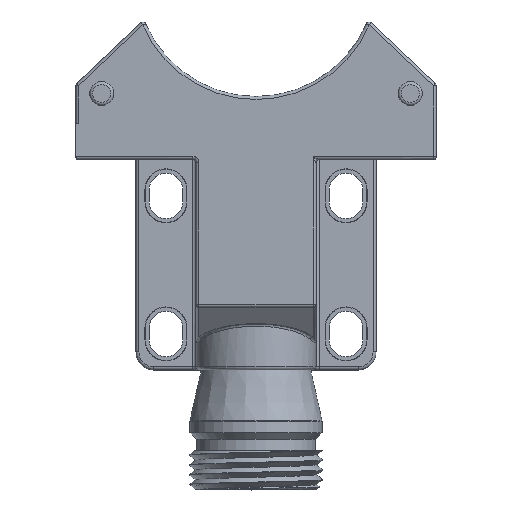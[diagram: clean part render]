
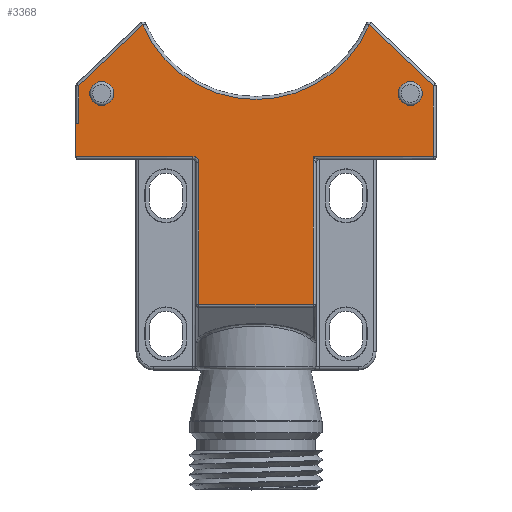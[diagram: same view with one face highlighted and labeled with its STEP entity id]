
A CAD part, top view. The second image highlights one B-rep face of the part: STEP entity #3368.
In plain terms, the highlighted planar face has unit normal (0, 0, 1).
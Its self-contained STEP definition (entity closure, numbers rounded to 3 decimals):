
#1255=CARTESIAN_POINT('',(84.393,-39.391,39.336));
#1256=VERTEX_POINT('',#1255);
#1266=CARTESIAN_POINT('',(83.893,-39.391,39.336));
#1267=VERTEX_POINT('',#1266);
#1274=CARTESIAN_POINT('',(84.393,-39.391,39.336));
#1275=DIRECTION('',(-1.0,0.0,0.0));
#1276=VECTOR('',#1275,0.5);
#1277=LINE('',#1274,#1276);
#1278=EDGE_CURVE('',#1256,#1267,#1277,.T.);
#1562=CARTESIAN_POINT('',(123.393,-44.891,39.336));
#1563=VERTEX_POINT('',#1562);
#1571=CARTESIAN_POINT('',(123.393,-69.541,39.336));
#1572=VERTEX_POINT('',#1571);
#1573=CARTESIAN_POINT('',(123.393,-44.891,39.336));
#1574=DIRECTION('',(0.0,-1.0,0.0));
#1575=VECTOR('',#1574,24.65);
#1576=LINE('',#1573,#1575);
#1577=EDGE_CURVE('',#1563,#1572,#1576,.T.);
#1623=CARTESIAN_POINT('',(104.393,-69.541,39.336));
#1624=VERTEX_POINT('',#1623);
#1640=CARTESIAN_POINT('',(123.393,-69.541,39.336));
#1641=DIRECTION('',(-1.0,0.0,0.0));
#1642=VECTOR('',#1641,19.);
#1643=LINE('',#1640,#1642);
#1644=EDGE_CURVE('',#1572,#1624,#1643,.T.);
#1661=CARTESIAN_POINT('',(104.393,-45.891,39.336));
#1662=VERTEX_POINT('',#1661);
#1663=CARTESIAN_POINT('',(104.393,-69.541,39.336));
#1664=DIRECTION('',(0.0,1.0,0.0));
#1665=VECTOR('',#1664,23.65);
#1666=LINE('',#1663,#1665);
#1667=EDGE_CURVE('',#1624,#1662,#1666,.T.);
#1770=CARTESIAN_POINT('',(103.393,-44.891,39.336));
#1771=VERTEX_POINT('',#1770);
#1779=CARTESIAN_POINT('',(83.893,-44.891,39.336));
#1780=VERTEX_POINT('',#1779);
#1781=CARTESIAN_POINT('',(103.393,-44.891,39.336));
#1782=DIRECTION('',(-1.0,0.0,0.0));
#1783=VECTOR('',#1782,19.5);
#1784=LINE('',#1781,#1783);
#1785=EDGE_CURVE('',#1771,#1780,#1784,.T.);
#1802=CARTESIAN_POINT('',(103.393,-45.891,39.336));
#1803=DIRECTION('',(0.,0.,1.));
#1804=DIRECTION('',(0.707,0.707,0.));
#1805=AXIS2_PLACEMENT_3D('',#1802,#1803,#1804);
#1806=CIRCLE('',#1805,1.);
#1807=EDGE_CURVE('',#1662,#1771,#1806,.T.);
#3112=CARTESIAN_POINT('',(83.893,-39.391,39.336));
#3113=DIRECTION('',(0.0,-1.0,0.0));
#3114=VECTOR('',#3113,5.5);
#3115=LINE('',#3112,#3114);
#3116=EDGE_CURVE('',#1267,#1780,#3115,.T.);
#3285=CARTESIAN_POINT('',(143.893,-39.391,39.336));
#3286=DIRECTION('',(0.0,0.0,1.0));
#3287=DIRECTION('',(-1.0,0.0,0.0));
#3288=AXIS2_PLACEMENT_3D('',#3285,#3286,#3287);
#3289=PLANE('',#3288);
#3290=CARTESIAN_POINT('',(143.393,-33.105,39.336));
#3291=VERTEX_POINT('',#3290);
#3292=CARTESIAN_POINT('',(143.393,-44.891,39.336));
#3293=VERTEX_POINT('',#3292);
#3294=CARTESIAN_POINT('',(143.393,-33.105,39.336));
#3295=DIRECTION('',(0.0,-1.0,0.0));
#3296=VECTOR('',#3295,11.785);
#3297=LINE('',#3294,#3296);
#3298=EDGE_CURVE('',#3291,#3293,#3297,.T.);
#3299=ORIENTED_EDGE('',*,*,#3298,.F.);
#3300=CARTESIAN_POINT('',(132.73,-22.979,39.336));
#3301=VERTEX_POINT('',#3300);
#3302=CARTESIAN_POINT('',(132.73,-22.979,39.336));
#3303=DIRECTION('',(0.725,-0.689,0.));
#3304=VECTOR('',#3303,14.705);
#3305=LINE('',#3302,#3304);
#3306=EDGE_CURVE('',#3301,#3291,#3305,.T.);
#3307=ORIENTED_EDGE('',*,*,#3306,.F.);
#3308=CARTESIAN_POINT('',(95.056,-22.979,39.336));
#3309=VERTEX_POINT('',#3308);
#3310=CARTESIAN_POINT('',(113.893,-14.891,39.336));
#3311=DIRECTION('',(0.0,0.0,1.0));
#3312=DIRECTION('',(0.0,-1.0,0.0));
#3313=AXIS2_PLACEMENT_3D('',#3310,#3311,#3312);
#3314=CIRCLE('',#3313,20.5);
#3315=EDGE_CURVE('',#3309,#3301,#3314,.T.);
#3316=ORIENTED_EDGE('',*,*,#3315,.F.);
#3317=CARTESIAN_POINT('',(84.393,-33.105,39.336));
#3318=VERTEX_POINT('',#3317);
#3319=CARTESIAN_POINT('',(84.393,-33.105,39.336));
#3320=DIRECTION('',(0.725,0.689,0.0));
#3321=VECTOR('',#3320,14.705);
#3322=LINE('',#3319,#3321);
#3323=EDGE_CURVE('',#3318,#3309,#3322,.T.);
#3324=ORIENTED_EDGE('',*,*,#3323,.F.);
#3325=CARTESIAN_POINT('',(84.393,-39.391,39.336));
#3326=DIRECTION('',(0.0,1.0,0.0));
#3327=VECTOR('',#3326,6.285);
#3328=LINE('',#3325,#3327);
#3329=EDGE_CURVE('',#1256,#3318,#3328,.T.);
#3330=ORIENTED_EDGE('',*,*,#3329,.F.);
#3331=ORIENTED_EDGE('',*,*,#1278,.T.);
#3332=ORIENTED_EDGE('',*,*,#3116,.T.);
#3333=ORIENTED_EDGE('',*,*,#1785,.F.);
#3334=ORIENTED_EDGE('',*,*,#1807,.F.);
#3335=ORIENTED_EDGE('',*,*,#1667,.F.);
#3336=ORIENTED_EDGE('',*,*,#1644,.F.);
#3337=ORIENTED_EDGE('',*,*,#1577,.F.);
#3338=CARTESIAN_POINT('',(143.393,-44.891,39.336));
#3339=DIRECTION('',(-1.0,0.0,0.0));
#3340=VECTOR('',#3339,20.);
#3341=LINE('',#3338,#3340);
#3342=EDGE_CURVE('',#3293,#1563,#3341,.T.);
#3343=ORIENTED_EDGE('',*,*,#3342,.F.);
#3344=EDGE_LOOP('',(#3299,#3307,#3316,#3324,#3330,#3331,#3332,#3333,#3334,#3335,#3336,#3337,#3343));
#3345=FACE_OUTER_BOUND('',#3344,.T.);
#3346=CARTESIAN_POINT('',(139.583,-32.391,39.336));
#3347=VERTEX_POINT('',#3346);
#3348=CARTESIAN_POINT('',(139.583,-34.391,39.336));
#3349=DIRECTION('',(0.0,0.0,-1.0));
#3350=DIRECTION('',(0.0,-1.0,0.0));
#3351=AXIS2_PLACEMENT_3D('',#3348,#3349,#3350);
#3352=CIRCLE('',#3351,2.);
#3353=EDGE_CURVE('',#3347,#3347,#3352,.T.);
#3354=ORIENTED_EDGE('',*,*,#3353,.T.);
#3355=EDGE_LOOP('',(#3354));
#3356=FACE_BOUND('',#3355,.T.);
#3357=CARTESIAN_POINT('',(88.203,-32.391,39.336));
#3358=VERTEX_POINT('',#3357);
#3359=CARTESIAN_POINT('',(88.203,-34.391,39.336));
#3360=DIRECTION('',(0.0,0.0,-1.0));
#3361=DIRECTION('',(0.0,-1.0,0.0));
#3362=AXIS2_PLACEMENT_3D('',#3359,#3360,#3361);
#3363=CIRCLE('',#3362,2.);
#3364=EDGE_CURVE('',#3358,#3358,#3363,.T.);
#3365=ORIENTED_EDGE('',*,*,#3364,.T.);
#3366=EDGE_LOOP('',(#3365));
#3367=FACE_BOUND('',#3366,.T.);
#3368=ADVANCED_FACE('',(#3345,#3356,#3367),#3289,.T.);
